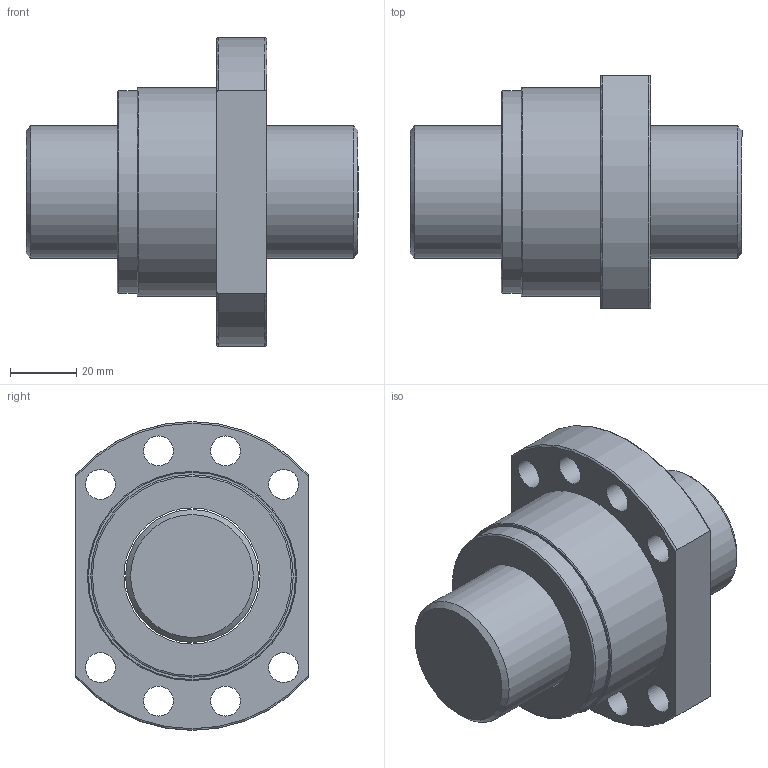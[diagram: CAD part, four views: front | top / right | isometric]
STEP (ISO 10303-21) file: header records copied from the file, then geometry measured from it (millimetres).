
FILE_DESCRIPTION(/* description */ (''),/* implementation_level */ '2;1');
FILE_NAME(/* name */ 'SFS4005',/* time_stamp */ '2007-10-26T11:19:01+08:00',/* author */ (''),/* organization */ (''),/* preprocessor_version */ 'ST-DEVELOPER v9',/* originating_system */ 'UGS - NX 3.0',/* authorisation */ '');
FILE_SCHEMA (('CONFIG_CONTROL_DESIGN'));
Length unit declared in the file: millimetre
Products named in the file (1): jaso37B0hu84
Bounding box: 100 x 70 x 93 mm (x, y, z)
Volume: 236902.4 mm3; surface area: 50723.7 mm2
Topology: 4 solids, 4 shells, 39 faces, 82 edges, 53 vertices
Faces by surface type: cylinder 18, plane 12, torus 7, cone 2
Full cylindrical faces by diameter (mm): 9 x8, 40 x1, 41 x3, 61 x2, 63 x2
Entity records: 1208 total; most frequent: CARTESIAN_POINT 298, DIRECTION 178, ORIENTED_EDGE 122, AXIS2_PLACEMENT_3D 85, EDGE_LOOP 84, FACE_BOUND 64, EDGE_CURVE 61, VERTEX_POINT 53
